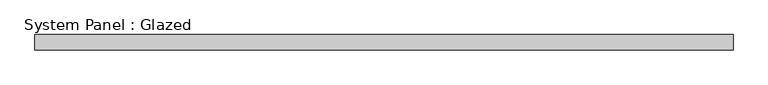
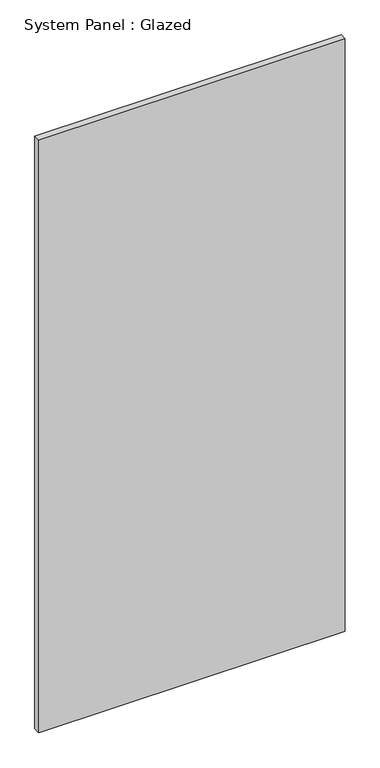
"""IFC4 building model written with IfcOpenShell, lengths in millimetres: plate geometry, System Panel : Glazed."""

from ifc_helpers import new_model, si_unit, origin, origin_with_axes, place, context, project, spatial, polyline, outline, extrude, source, transform, mapped, element, save


def system_panel_glazed_7b0188e2(model_context):
    return source(origin(), model_context, "Body", "SweptSolid", [
        extrude(outline(polyline([(575.0000001, 24.5), (-575.0000001, 24.5), (-575.0000001, 49.5), (575.0000001, 49.5), (575.0000001, 24.5)])), origin_with_axes(), (0.0, 0.0, 1.0), 2350.0),
    ])


if __name__ == "__main__":
    model = new_model("IFC4")
    model_context = context("Model", 3, world=origin())
    ifc_project = project(units=[si_unit("LENGTHUNIT", "METRE", prefix="MILLI")], contexts=[model_context])
    site = spatial("IfcSite", under=ifc_project)
    building = spatial("IfcBuilding", under=site)
    placement = place(None, origin())
    system_panel_glazed_shape = system_panel_glazed_7b0188e2(model_context)
    element("IfcPlate", 1, ObjectType="System Panel : Glazed", at=placement, inside=building, context=model_context, shape_type="MappedRepresentation", body=[
        mapped(system_panel_glazed_shape, transform((0.0, 0.0, 0.0), x_axis=(1.0, 0.0, 0.0), y_axis=(0.0, 1.0, 0.0), z_axis=(0.0, 0.0, 1.0))),
    ])
    save(model, "model.ifc")
